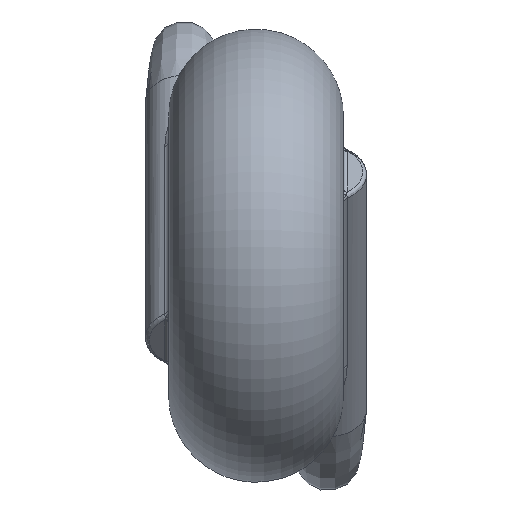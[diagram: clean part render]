
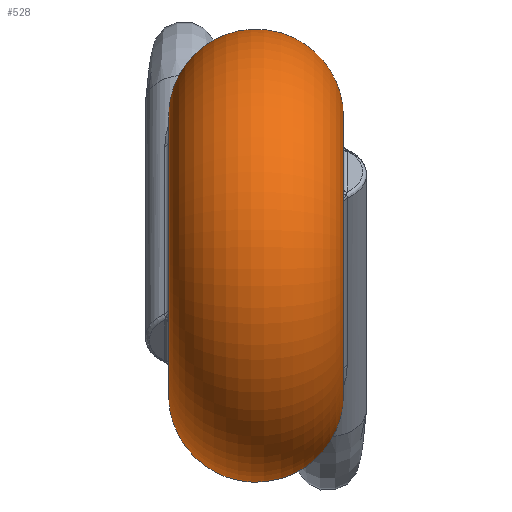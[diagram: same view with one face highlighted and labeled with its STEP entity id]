
A CAD part, left-side view. The second image highlights one B-rep face of the part: STEP entity #528.
In plain terms, the highlighted toroidal (fillet/blend) face has major radius 3.595 mm and minor radius 2.255 mm.
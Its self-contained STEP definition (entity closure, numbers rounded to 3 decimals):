
#20=TOROIDAL_SURFACE('',#582,3.595,2.255);
#77=B_SPLINE_CURVE_WITH_KNOTS('',3,(#1588,#1589,#1590,#1591,#1592,#1593,
#1594,#1595,#1596,#1597,#1598,#1599,#1600,#1601,#1602,#1603),
 .UNSPECIFIED.,.F.,.F.,(4,1,1,1,1,1,1,1,1,1,1,1,1,4),(-0.79,
-0.734,-0.677,-0.593,-0.564,
-0.508,-0.452,-0.395,-0.339,
-0.282,-0.226,-0.113,-0.056,
0.),.UNSPECIFIED.);
#78=B_SPLINE_CURVE_WITH_KNOTS('',3,(#1609,#1610,#1611,#1612,#1613,#1614,
#1615,#1616,#1617,#1618,#1619,#1620,#1621,#1622,#1623,#1624),
 .UNSPECIFIED.,.F.,.F.,(4,1,1,1,1,1,1,1,1,1,1,1,1,4),(-0.79,
-0.734,-0.677,-0.593,-0.564,
-0.508,-0.452,-0.395,-0.339,
-0.282,-0.226,-0.113,-0.056,
0.),.UNSPECIFIED.);
#95=FACE_BOUND('',#167,.T.);
#125=FACE_OUTER_BOUND('',#166,.T.);
#166=EDGE_LOOP('',(#417,#418));
#167=EDGE_LOOP('',(#419,#420));
#205=CIRCLE('',#583,3.595);
#206=CIRCLE('',#584,3.595);
#245=VERTEX_POINT('',#1503);
#246=VERTEX_POINT('',#1586);
#247=VERTEX_POINT('',#1607);
#248=VERTEX_POINT('',#1608);
#308=EDGE_CURVE('',#246,#245,#77,.T.);
#310=EDGE_CURVE('',#247,#248,#78,.T.);
#311=EDGE_CURVE('',#247,#248,#205,.T.);
#312=EDGE_CURVE('',#246,#245,#206,.T.);
#417=ORIENTED_EDGE('',*,*,#310,.T.);
#418=ORIENTED_EDGE('',*,*,#311,.F.);
#419=ORIENTED_EDGE('',*,*,#308,.T.);
#420=ORIENTED_EDGE('',*,*,#312,.F.);
#528=ADVANCED_FACE('',(#125,#95),#20,.T.);
#582=AXIS2_PLACEMENT_3D('',#1606,#693,#694);
#583=AXIS2_PLACEMENT_3D('',#1625,#695,#696);
#584=AXIS2_PLACEMENT_3D('',#1626,#697,#698);
#693=DIRECTION('center_axis',(0.,1.,0.));
#694=DIRECTION('ref_axis',(1.,0.,0.));
#695=DIRECTION('center_axis',(0.,-1.,0.));
#696=DIRECTION('ref_axis',(-1.,0.,0.));
#697=DIRECTION('center_axis',(0.,1.,0.));
#698=DIRECTION('ref_axis',(-1.,0.,0.));
#1503=CARTESIAN_POINT('',(2.072,3.7,2.938));
#1586=CARTESIAN_POINT('',(3.356,3.7,1.29));
#1588=CARTESIAN_POINT('Ctrl Pts',(3.356,3.7,1.29));
#1589=CARTESIAN_POINT('Ctrl Pts',(3.476,3.7,1.418));
#1590=CARTESIAN_POINT('Ctrl Pts',(3.732,3.666,1.656));
#1591=CARTESIAN_POINT('Ctrl Pts',(4.196,3.474,2.002));
#1592=CARTESIAN_POINT('Ctrl Pts',(4.539,3.174,2.269));
#1593=CARTESIAN_POINT('Ctrl Pts',(4.75,2.808,2.578));
#1594=CARTESIAN_POINT('Ctrl Pts',(4.825,2.482,2.872));
#1595=CARTESIAN_POINT('Ctrl Pts',(4.711,2.152,3.294));
#1596=CARTESIAN_POINT('Ctrl Pts',(4.413,2.002,3.746));
#1597=CARTESIAN_POINT('Ctrl Pts',(4.015,2.102,4.134));
#1598=CARTESIAN_POINT('Ctrl Pts',(3.612,2.42,4.34));
#1599=CARTESIAN_POINT('Ctrl Pts',(3.149,2.968,4.287));
#1600=CARTESIAN_POINT('Ctrl Pts',(2.805,3.428,3.852));
#1601=CARTESIAN_POINT('Ctrl Pts',(2.426,3.659,3.32));
#1602=CARTESIAN_POINT('Ctrl Pts',(2.196,3.7,3.058));
#1603=CARTESIAN_POINT('Ctrl Pts',(2.072,3.7,2.938));
#1606=CARTESIAN_POINT('Origin',(0.,1.445,0.));
#1607=CARTESIAN_POINT('',(3.356,-0.81,-1.29));
#1608=CARTESIAN_POINT('',(2.072,-0.81,-2.938));
#1609=CARTESIAN_POINT('Ctrl Pts',(3.356,-0.81,-1.29));
#1610=CARTESIAN_POINT('Ctrl Pts',(3.476,-0.81,-1.418));
#1611=CARTESIAN_POINT('Ctrl Pts',(3.732,-0.776,-1.656));
#1612=CARTESIAN_POINT('Ctrl Pts',(4.196,-0.584,-2.002));
#1613=CARTESIAN_POINT('Ctrl Pts',(4.539,-0.284,-2.269));
#1614=CARTESIAN_POINT('Ctrl Pts',(4.75,0.082,-2.578));
#1615=CARTESIAN_POINT('Ctrl Pts',(4.825,0.408,-2.872));
#1616=CARTESIAN_POINT('Ctrl Pts',(4.711,0.738,-3.294));
#1617=CARTESIAN_POINT('Ctrl Pts',(4.413,0.888,-3.746));
#1618=CARTESIAN_POINT('Ctrl Pts',(4.015,0.788,-4.134));
#1619=CARTESIAN_POINT('Ctrl Pts',(3.612,0.47,-4.34));
#1620=CARTESIAN_POINT('Ctrl Pts',(3.149,-0.078,-4.287));
#1621=CARTESIAN_POINT('Ctrl Pts',(2.805,-0.538,-3.852));
#1622=CARTESIAN_POINT('Ctrl Pts',(2.426,-0.769,-3.319));
#1623=CARTESIAN_POINT('Ctrl Pts',(2.196,-0.81,-3.058));
#1624=CARTESIAN_POINT('Ctrl Pts',(2.072,-0.81,-2.938));
#1625=CARTESIAN_POINT('Origin',(0.,-0.81,0.));
#1626=CARTESIAN_POINT('Origin',(0.,3.7,0.));
